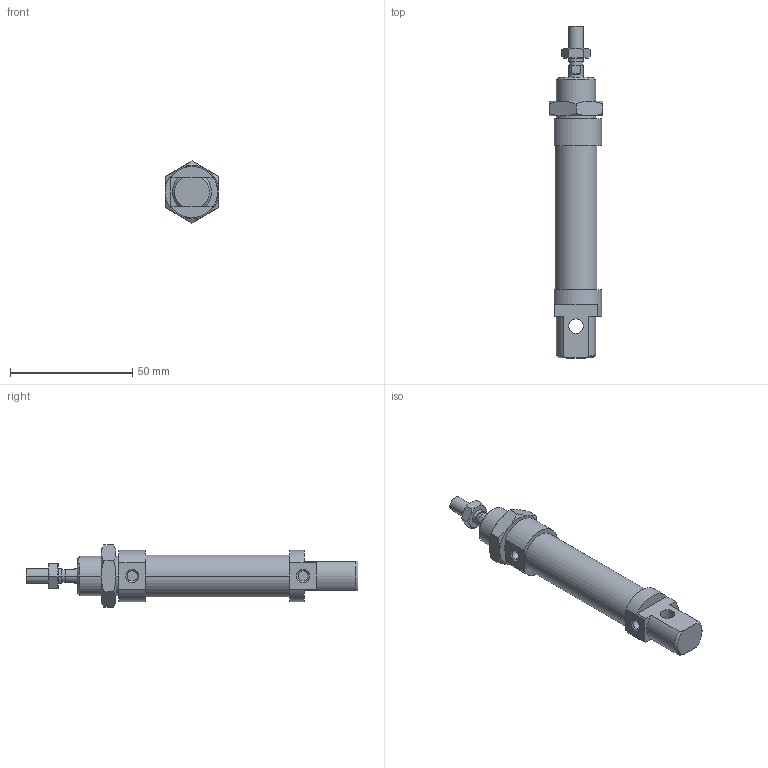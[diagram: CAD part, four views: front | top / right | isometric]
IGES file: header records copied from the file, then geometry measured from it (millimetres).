
Global section: file name: No Iges File Name specified; native system: Autodesk Inventor 2010; preprocessor: AutoDesk Inventor Iges Exporter R2010; author: rivolro1; date: 20090604.093212; units: millimetre
Bounding box: 22 x 136 x 25.4 mm (x, y, z)
Volume: 28669.7 mm3; surface area: 11340.2 mm2
Topology: 4 solids, 4 shells, 107 faces, 236 edges, 144 vertices
Faces by surface type: plane 39, cone 28, bspline 20, cylinder 14, revolution 6
